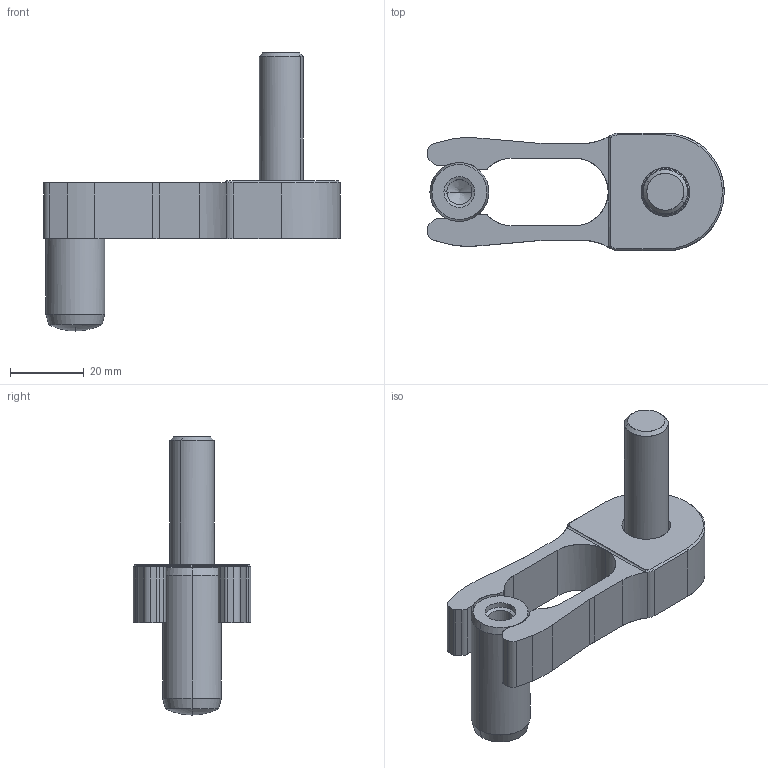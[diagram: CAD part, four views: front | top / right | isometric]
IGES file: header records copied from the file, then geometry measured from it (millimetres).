
Start section: START RECORD GO HERE.
Global section: file name: rc328016.igs; native system: DASSAULT SYSTEMES CATIA V5 R20 - www.3ds.com; preprocessor: CATIA Version 5 Release 20 ; author: Utente; organization: NB04-ASUS; date: 20201103.214402; units: millimetre
Bounding box: 80.6 x 32 x 75.6 mm (x, y, z)
Surface area: 13416.5 mm2 (no closed solid volume)
Topology: 0 solids, 0 shells, 110 faces, 537 edges, 532 vertices
Faces by surface type: revolution 71, plane 39
